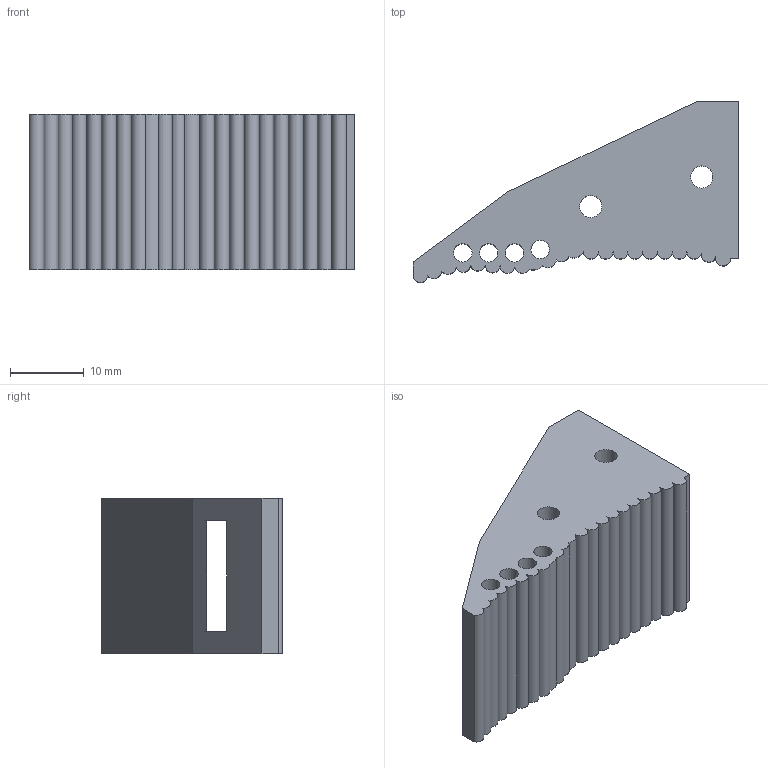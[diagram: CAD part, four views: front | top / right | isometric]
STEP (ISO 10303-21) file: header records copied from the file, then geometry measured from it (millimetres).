
FILE_DESCRIPTION (( 'STEP AP214' ), '1' );
FILE_NAME ('right-tpu-fingertip.step', '2026-11-14T03:54:32', ( '' ), ( '' ), 'SwSTEP 2.0', 'SolidWorks 2024', '' );
FILE_SCHEMA (( 'AUTOMOTIVE_DESIGN' ));
Length unit declared in the file: millimetre
Products named in the file (1): right-tpu-fingertip
Bounding box: 44 x 24.54 x 21 mm (x, y, z)
Volume: 6609.4 mm3; surface area: 6190 mm2
Topology: 1 solids, 1 shells, 46 faces, 135 edges, 90 vertices
Faces by surface type: cylinder 30, plane 16
Full cylindrical faces by diameter (mm): 2.5 x4, 3 x4
Entity records: 1578 total; most frequent: DIRECTION 281, CARTESIAN_POINT 264, ORIENTED_EDGE 254, EDGE_CURVE 127, AXIS2_PLACEMENT_3D 107, VERTEX_POINT 90, EDGE_LOOP 71, VECTOR 67
